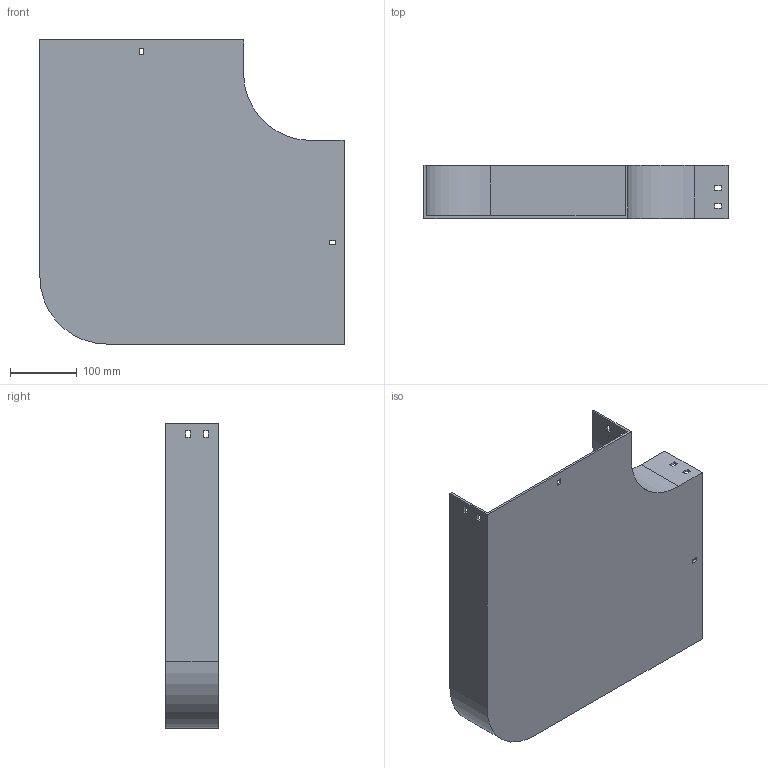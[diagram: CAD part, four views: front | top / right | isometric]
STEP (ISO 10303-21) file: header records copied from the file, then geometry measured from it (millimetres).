
FILE_DESCRIPTION (( 'STEP AP214' ), '1' );
FILE_NAME ('10B1C300.step', '2025-02-21T09:41:40', ( '' ), ( '' ), 'SwSTEP 2.0', 'SolidWorks 2023', '' );
FILE_SCHEMA (( 'AUTOMOTIVE_DESIGN' ));
Length unit declared in the file: millimetre
Products named in the file (1): 10B1C300
Bounding box: 454 x 79 x 454 mm (x, y, z)
Volume: 936817.1 mm3; surface area: 543605.6 mm2
Topology: 1 solids, 1 shells, 58 faces, 168 edges, 112 vertices
Faces by surface type: plane 54, cylinder 4
Entity records: 1943 total; most frequent: CARTESIAN_POINT 339, ORIENTED_EDGE 336, DIRECTION 294, EDGE_CURVE 168, LINE 160, VECTOR 160, VERTEX_POINT 112, EDGE_LOOP 78
